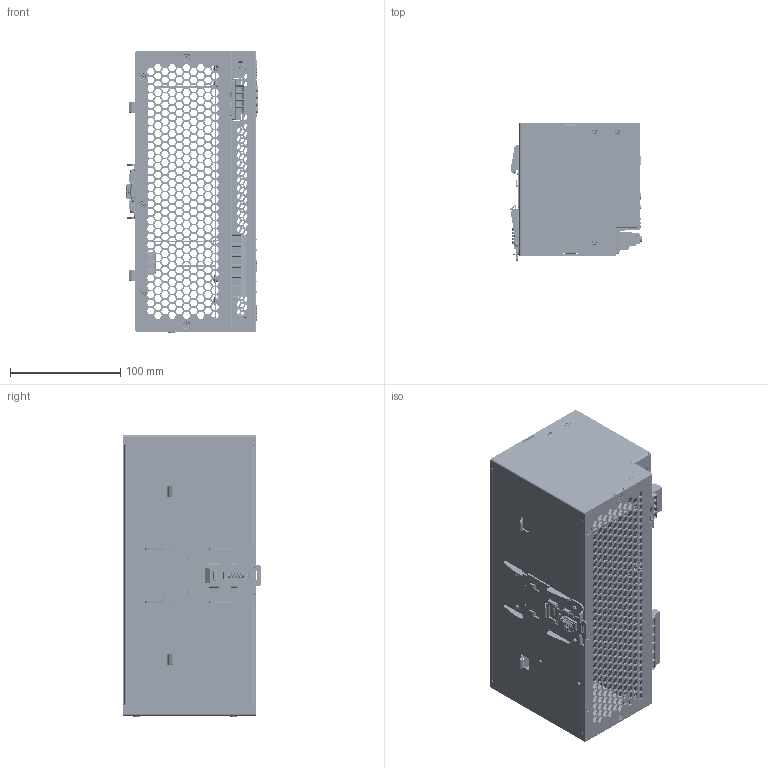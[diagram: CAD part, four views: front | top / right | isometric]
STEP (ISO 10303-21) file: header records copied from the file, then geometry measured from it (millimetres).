
FILE_DESCRIPTION((''),'2;1');
FILE_NAME('DRP024V960W3BN_ASM','2013-10-25T',('Anothai'),(''),'PRO/ENGINEER BY PARAMETRIC TECHNOLOGY CORPORATION, 2010180','PRO/ENGINEER BY PARAMETRIC TECHNOLOGY CORPORATION, 2010180','');
FILE_SCHEMA(('CONFIG_CONTROL_DESIGN','SHAPE_APPEARANCE_LAYERS_GROUPS'));
Products named in the file (54): 330310500101_PART-A; 330310500101_PART-B; 330310500101_ASM; 346130450102; 346008810000; 346209430000; 390017750000_ASM; 324602840000; 326838880000; 2958051103_PWB; 2968137403_DCT-1374; 3071380900; ASSY_DCT-1374_ASM; 2968160502_DCT-1605; ASSY_DCT-1605_ASM; 2968160601_DCT-1606; 3071380800; ASSY_DCT-1606_ASM; 3461426400; 3461415900; 3350940600; ASSY_PWB_DRP024V960W3BN_ASM; 2968137201_DCT-1372; 307662647W_A_1; 307662647W_A_2; 307662647W_A_3; 307662647W_A_4; 307662647W_A_F_ASM; 307662647W_A_5; 307662647W_A_B_ASM; 307662647W_ASM; 307049157W_A_1; 307049157W_ASM; 2968159501_PWB_; 3071466834; EE_VR_1; DCT-1595_VR_ASM; 346050340000; 3123321800; EE_LED350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
Assembly tree (98 placements, depth 5):
  DRP024V960W3BN_ASM
    330310500101_ASM
      330310500101_PART-A
      330310500101_PART-B
    390017750000_ASM
      346130450102
      346008810000
      346209430000
    324602840000
    326838880000
    ASSY_PWB_DRP024V960W3BN_ASM
      2958051103_PWB
      ASSY_DCT-1374_ASM
        2968137403_DCT-1374
        3071380900
      ASSY_DCT-1605_ASM
        2968160502_DCT-1605
        3071380900
      ASSY_DCT-1606_ASM
        2968160601_DCT-1606
        3071380800
      3461426400  x5
      3461415900  x5
      3350940600  x4
    ASSY_DCT-1372_ASM
      2968137201_DCT-1372
      307662647W_ASM
        307662647W_A_F_ASM  x2
          307662647W_A_1
          307662647W_A_2
          307662647W_A_3
          307662647W_A_4
        307662647W_A_B_ASM  x2
          307662647W_A_1
          307662647W_A_2
          307662647W_A_3
          307662647W_A_5
      307049157W_ASM
        307049157W_A_1  x2
      DCT-1595_VR_ASM
        2968159501_PWB_
        3071466834
        EE_VR_1
      346050340000
      3350940600  x3
      3123321800
      EE_LED350
    ASSY_DCT-1373_ASM
      2968137301_DCT-1373
      3352014200  x5
    330310480202
    347205340102
    326255920101
    3100000600  x4
    3103000601  x17
    3105039100  x2
    3103300600
    324602850101
    322082410_W35
Bounding box: 119.54 x 126 x 256.05 mm (x, y, z)
Volume: 371526.6 mm3; surface area: 641934.2 mm2
Topology: 129 solids, 129 shells, 14333 faces, 39390 edges, 25544 vertices
Faces by surface type: plane 11303, cylinder 1991, extrusion 385, bspline 331, cone 224, torus 99
Entity records: 424370 total; most frequent: CARTESIAN_POINT 81865, ORIENTED_EDGE 56448, DIRECTION 48987, EDGE_CURVE 28224, PRESENTATION_STYLE_ASSIGNMENT 25720, STYLED_ITEM 25540, CURVE_STYLE 25492, VECTOR 25153
